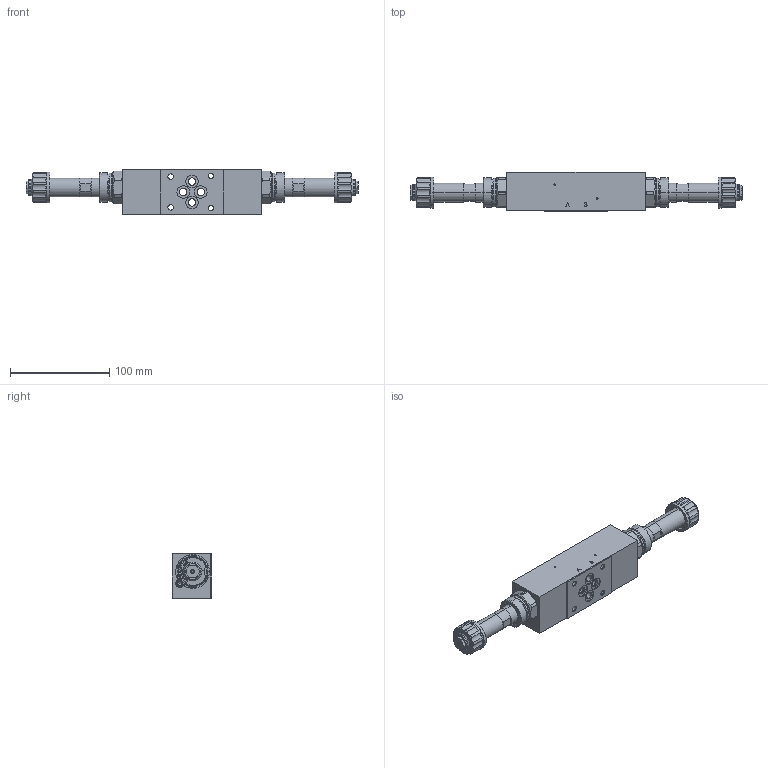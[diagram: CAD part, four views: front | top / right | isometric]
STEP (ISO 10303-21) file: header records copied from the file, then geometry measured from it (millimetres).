
FILE_DESCRIPTION (( 'STEP AP214' ), '1' );
FILE_NAME ('DNPSA06-AB.STEP', '2017-04-19T12:07:27', ( '' ), ( '' ), 'SwSTEP 2.0', 'SolidWorks 2016', '' );
FILE_SCHEMA (( 'AUTOMOTIVE_DESIGN' ));
Length unit declared in the file: millimetre
Products named in the file (1): DNPSA06-AB
Bounding box: 334.4 x 39.75 x 45 mm (x, y, z)
Volume: 319128.3 mm3; surface area: 61148.1 mm2
Topology: 4 solids, 8 shells, 796 faces, 2003 edges, 1290 vertices
Faces by surface type: plane 395, cylinder 196, cone 132, bspline 41, torus 24, sphere 8
Entity records: 35472 total; most frequent: CARTESIAN_POINT 7621, ORIENTED_EDGE 3990, DIRECTION 3909, EDGE_CURVE 1995, AXIS2_PLACEMENT_3D 1402, VERTEX_POINT 1290, LINE 1105, VECTOR 1105
